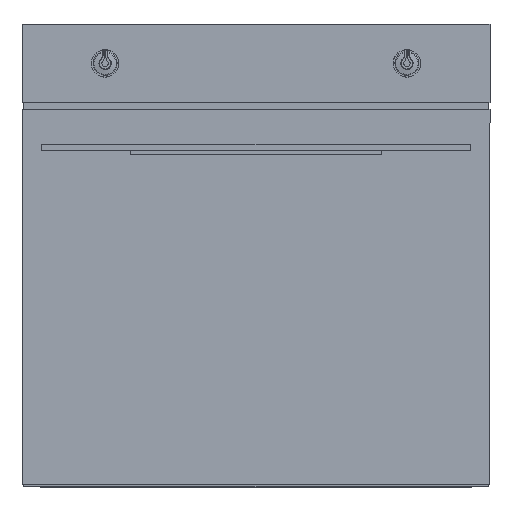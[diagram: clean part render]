
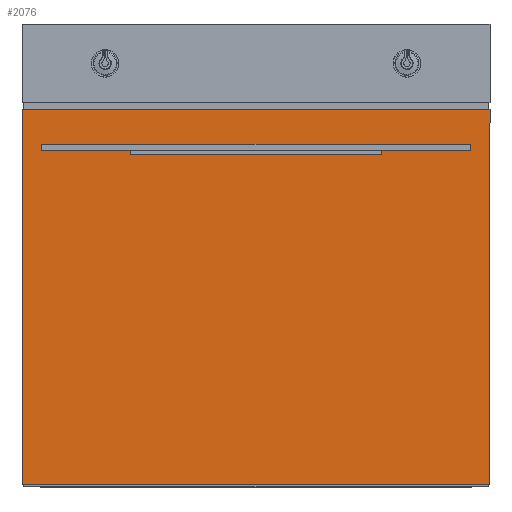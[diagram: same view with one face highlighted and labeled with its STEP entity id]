
A CAD part, front view. The second image highlights one B-rep face of the part: STEP entity #2076.
In plain terms, the highlighted planar face has unit normal (0, -1, 0).
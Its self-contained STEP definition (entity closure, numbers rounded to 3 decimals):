
#142=ORIENTED_EDGE('',*,*,#615,.T.);
#143=ORIENTED_EDGE('',*,*,#616,.T.);
#144=ORIENTED_EDGE('',*,*,#617,.F.);
#145=ORIENTED_EDGE('',*,*,#618,.T.);
#146=ORIENTED_EDGE('',*,*,#619,.F.);
#147=ORIENTED_EDGE('',*,*,#608,.F.);
#148=ORIENTED_EDGE('',*,*,#611,.T.);
#149=ORIENTED_EDGE('',*,*,#614,.T.);
#608=EDGE_CURVE('',#847,#848,#1011,.T.);
#611=EDGE_CURVE('',#847,#849,#1014,.T.);
#614=EDGE_CURVE('',#849,#850,#1017,.T.);
#615=EDGE_CURVE('',#851,#852,#1018,.T.);
#616=EDGE_CURVE('',#852,#853,#1019,.T.);
#617=EDGE_CURVE('',#854,#853,#1020,.T.);
#618=EDGE_CURVE('',#854,#851,#1021,.T.);
#619=EDGE_CURVE('',#848,#850,#1022,.T.);
#847=VERTEX_POINT('',#2786);
#848=VERTEX_POINT('',#2787);
#849=VERTEX_POINT('',#2792);
#850=VERTEX_POINT('',#2796);
#851=VERTEX_POINT('',#2800);
#852=VERTEX_POINT('',#2801);
#853=VERTEX_POINT('',#2803);
#854=VERTEX_POINT('',#2805);
#1011=LINE('',#2785,#1175);
#1014=LINE('',#2791,#1178);
#1017=LINE('',#2797,#1181);
#1018=LINE('',#2799,#1182);
#1019=LINE('',#2802,#1183);
#1020=LINE('',#2804,#1184);
#1021=LINE('',#2806,#1185);
#1022=LINE('',#2807,#1186);
#1175=VECTOR('',#2330,1000.);
#1178=VECTOR('',#2335,1000.);
#1181=VECTOR('',#2340,1000.);
#1182=VECTOR('',#2343,1000.);
#1183=VECTOR('',#2344,1000.);
#1184=VECTOR('',#2345,1000.);
#1185=VECTOR('',#2346,1000.);
#1186=VECTOR('',#2347,1000.);
#1339=EDGE_LOOP('',(#142,#143,#144,#145));
#1340=EDGE_LOOP('',(#146,#147,#148,#149));
#1445=FACE_BOUND('',#1339,.T.);
#1446=FACE_BOUND('',#1340,.T.);
#1554=PLANE('',#2180);
#2076=ADVANCED_FACE('',(#1445,#1446),#1554,.T.);
#2180=AXIS2_PLACEMENT_3D('',#2798,#2341,#2342);
#2330=DIRECTION('',(0.,0.,1.));
#2335=DIRECTION('',(1.,0.,0.));
#2340=DIRECTION('',(0.,0.,1.));
#2341=DIRECTION('',(0.,-1.,0.));
#2342=DIRECTION('',(0.,0.,-1.));
#2343=DIRECTION('',(-1.,0.,0.));
#2344=DIRECTION('',(0.,0.,1.));
#2345=DIRECTION('',(-1.,0.,0.));
#2346=DIRECTION('',(0.,0.,-1.));
#2347=DIRECTION('',(1.,0.,0.));
#2785=CARTESIAN_POINT('',(-298.5,-488.25,-1.5));
#2786=CARTESIAN_POINT('',(-298.5,-488.25,-241.));
#2787=CARTESIAN_POINT('',(-298.5,-488.25,238.));
#2791=CARTESIAN_POINT('',(0.,-488.25,-241.));
#2792=CARTESIAN_POINT('',(298.5,-488.25,-241.));
#2796=CARTESIAN_POINT('',(298.5,-488.25,238.));
#2797=CARTESIAN_POINT('',(298.5,-488.25,-241.));
#2798=CARTESIAN_POINT('',(0.,-488.25,-241.));
#2799=CARTESIAN_POINT('',(0.,-488.25,185.5));
#2800=CARTESIAN_POINT('',(273.,-488.25,185.5));
#2801=CARTESIAN_POINT('',(-273.,-488.25,185.5));
#2802=CARTESIAN_POINT('',(-273.,-488.25,185.5));
#2803=CARTESIAN_POINT('',(-273.,-488.25,193.5));
#2804=CARTESIAN_POINT('',(0.,-488.25,193.5));
#2805=CARTESIAN_POINT('',(273.,-488.25,193.5));
#2806=CARTESIAN_POINT('',(273.,-488.25,189.5));
#2807=CARTESIAN_POINT('',(0.,-488.25,238.));
